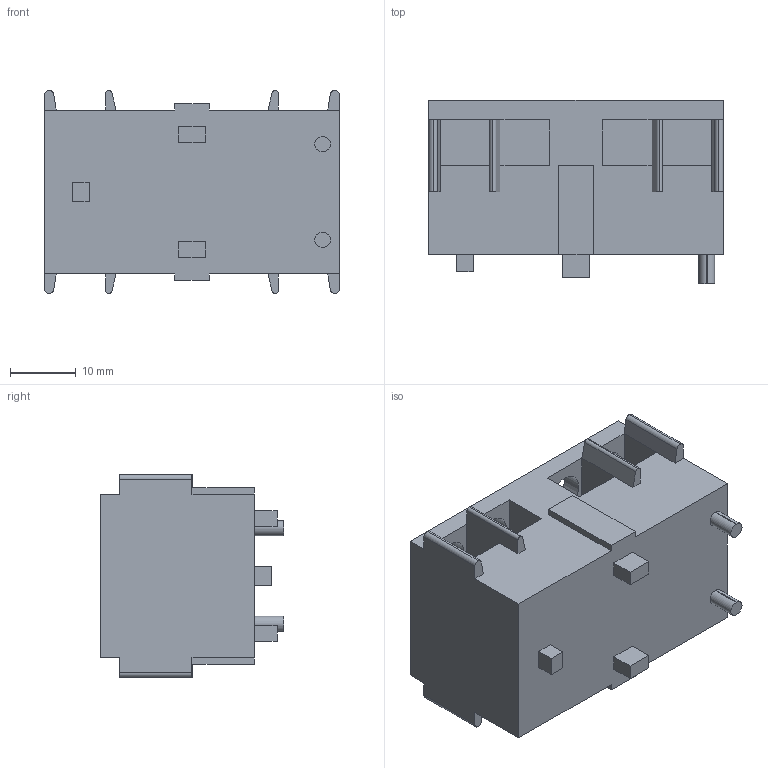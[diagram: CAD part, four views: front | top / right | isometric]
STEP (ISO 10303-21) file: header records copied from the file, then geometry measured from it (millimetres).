
FILE_DESCRIPTION (( 'STEP AP203' ), '1' );
FILE_NAME ('HK.STEP', '2016-01-13T05:27:59', ( 'edv' ), ( '' ), 'SwSTEP 2.0', 'SolidWorks 2015', '' );
FILE_SCHEMA (( 'CONFIG_CONTROL_DESIGN' ));
Length unit declared in the file: millimetre
Products named in the file (1): HK
Bounding box: 45 x 28 x 31.01 mm (x, y, z)
Volume: 22432.1 mm3; surface area: 8583.1 mm2
Topology: 1 solids, 1 shells, 146 faces, 384 edges, 246 vertices
Faces by surface type: plane 114, cylinder 32
Entity records: 4541 total; most frequent: CARTESIAN_POINT 777, ORIENTED_EDGE 768, DIRECTION 742, EDGE_CURVE 384, LINE 320, VECTOR 320, VERTEX_POINT 246, AXIS2_PLACEMENT_3D 211
